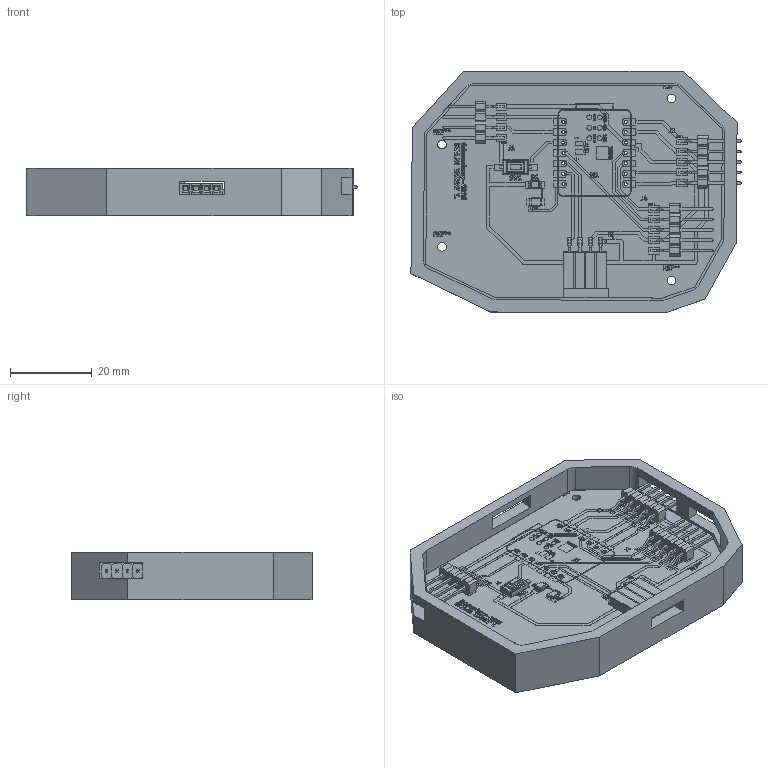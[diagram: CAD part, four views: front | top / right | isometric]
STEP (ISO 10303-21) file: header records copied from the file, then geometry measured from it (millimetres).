
FILE_DESCRIPTION(/* description */ ('KiCad electronic assembly'),/* implementation_level */ '2;1');
FILE_NAME(/* name */ 'FP_Main_FLAT3D_ENCLOSUREopening.step',/* time_stamp */ '2026-05-21T07:47:04+03:00',/* author */ (''),/* organization */ (''),/* preprocessor_version */ 'ST-DEVELOPER v20.1',/* originating_system */ 'Autodesk Translation Framework v15.8.0.0',/* authorisation */ '');
FILE_SCHEMA (('AUTOMOTIVE_DESIGN { 1 0 10303 214 3 1 1 }'));
Products named in the file (30): FP_Main_FLAT3D3 1; PinSocket-01x04_P2.54mm_Horizontal_SMD; FP_Main_FLAT3D3 1.2.1; FP_Main_FLAT3D3 1.2.2; Switch_CnK-PTS636SM25FSMTR; LeadA; LeadB; Cover; Button; Header_SMD_01x04_P2.54mm_Horizontal_Male; FP_Main_FLAT3D3 1.5.1; FP_Main_FLAT3D3 1.5.2; Resistor-1206; Ceramic; Contacts; #74695; Overcoat; FP_Main_copper; LED-1206; Base; Emmiter; Contact_1; Contact_2; FP_Main_silkscreen; FP_Main_soldermask; FP_Main_soldermask_1; FP_Main_PCB; Header_SMD_01x05_P2.54mm_Horizontal_Male; FP_Main_FLAT3D3 1.1.1; FP_Main_FLAT3D3 1.1.2
Assembly tree (30 placements, depth 3):
  FP_Main_FLAT3D3 1
    Header_SMD_01x05_P2.54mm_Horizontal_Male  x2
      FP_Main_FLAT3D3 1.1.1
      FP_Main_FLAT3D3 1.1.2
    PinSocket-01x04_P2.54mm_Horizontal_SMD
      FP_Main_FLAT3D3 1.2.1
      FP_Main_FLAT3D3 1.2.2
    Switch_CnK-PTS636SM25FSMTR
      LeadA
      LeadB
      Cover
      Button
    Header_SMD_01x04_P2.54mm_Horizontal_Male
      FP_Main_FLAT3D3 1.5.1
      FP_Main_FLAT3D3 1.5.2
    Resistor-1206
      Ceramic
      Contacts
      #74695
      Overcoat
    FP_Main_copper
    LED-1206
      Base
      Emmiter
      Contact_1
      Contact_2
    FP_Main_silkscreen
    FP_Main_soldermask
    FP_Main_soldermask_1
    FP_Main_PCB
Bounding box: 80.67 x 59.03 x 11.6 mm (x, y, z)
Volume: 26284.1 mm3; surface area: 30805.2 mm2
Topology: 102 solids, 187 shells, 2292 faces, 7084 edges, 5102 vertices
Faces by surface type: plane 1937, cylinder 339, bspline 8, sphere 8
Full cylindrical faces by diameter (mm): 0.75 x14, 0.8 x28, 1 x2, 1.2 x6, 1.6 x26, 2.1 x8
Entity records: 74789 total; most frequent: CARTESIAN_POINT 14106, DIRECTION 11962, ORIENTED_EDGE 11706, EDGE_CURVE 6626, LINE 5526, VECTOR 5526, VERTEX_POINT 4842, AXIS2_PLACEMENT_3D 3218
